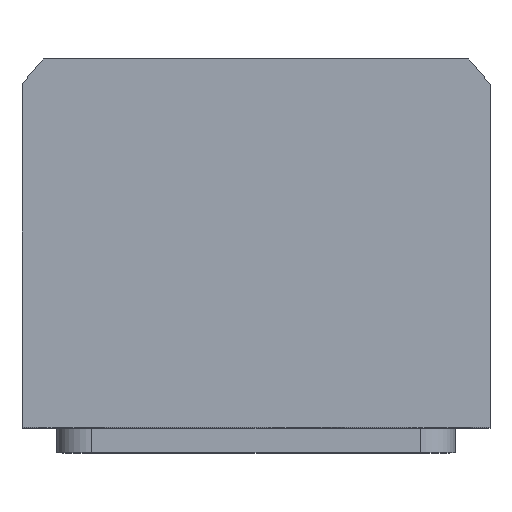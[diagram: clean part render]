
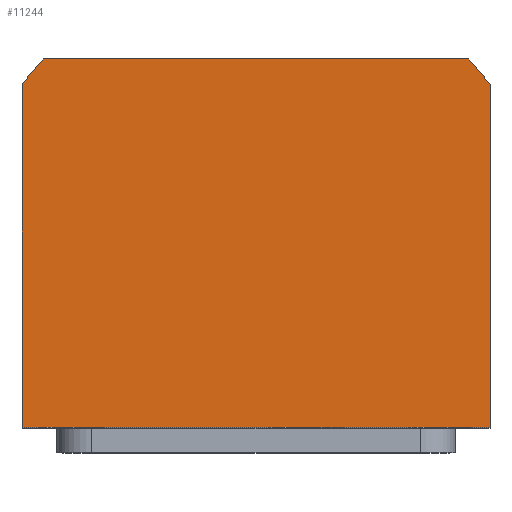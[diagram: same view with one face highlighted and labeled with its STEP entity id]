
A CAD part, top view. The second image highlights one B-rep face of the part: STEP entity #11244.
In plain terms, the highlighted planar face has unit normal (0, 0, 1).
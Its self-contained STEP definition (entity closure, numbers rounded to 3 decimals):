
#343 = CARTESIAN_POINT ( 'NONE',  ( 47., 34.832, 62.5 ) ) ;
#586 = VECTOR ( 'NONE', #9265, 1000. ) ;
#790 = DIRECTION ( 'NONE',  ( 1., 0., 0. ) ) ;
#1050 = DIRECTION ( 'NONE',  ( 1., 0., 0. ) ) ;
#1101 = DIRECTION ( 'NONE',  ( 0., 0., 1. ) ) ;
#1125 = VECTOR ( 'NONE', #7964, 1000. ) ;
#1385 = CARTESIAN_POINT ( 'NONE',  ( 47., 34.832, 62.5 ) ) ;
#1473 = VERTEX_POINT ( 'NONE', #3201 ) ;
#1519 = EDGE_CURVE ( 'NONE', #4771, #7398, #8348, .T. ) ;
#2261 = AXIS2_PLACEMENT_3D ( 'NONE', #11240, #10021, #790 ) ;
#2596 = VERTEX_POINT ( 'NONE', #6832 ) ;
#2744 = EDGE_CURVE ( 'NONE', #4696, #14086, #14816, .T. ) ;
#2892 = AXIS2_PLACEMENT_3D ( 'NONE', #14411, #5334, #7507 ) ;
#3201 = CARTESIAN_POINT ( 'NONE',  ( -42.688, 40., 62.5 ) ) ;
#3496 = CIRCLE ( 'NONE', #4335, 58.5 ) ;
#3523 = FACE_OUTER_BOUND ( 'NONE', #3613, .T. ) ;
#3613 = EDGE_LOOP ( 'NONE', ( #12106, #4655, #4241, #9357, #12637, #7043 ) ) ;
#4241 = ORIENTED_EDGE ( 'NONE', *, *, #5496, .T. ) ;
#4302 = DIRECTION ( 'NONE',  ( 1., 0., 0. ) ) ;
#4335 = AXIS2_PLACEMENT_3D ( 'NONE', #4736, #1101, #1050 ) ;
#4655 = ORIENTED_EDGE ( 'NONE', *, *, #2744, .T. ) ;
#4696 = VERTEX_POINT ( 'NONE', #14003 ) ;
#4736 = CARTESIAN_POINT ( 'NONE',  ( 0., 0., 62.5 ) ) ;
#4771 = VERTEX_POINT ( 'NONE', #14312 ) ;
#5334 = DIRECTION ( 'NONE',  ( 0., 0., 1. ) ) ;
#5496 = EDGE_CURVE ( 'NONE', #14086, #2596, #8185, .T. ) ;
#6412 = EDGE_CURVE ( 'NONE', #1473, #4771, #3496, .T. ) ;
#6462 = EDGE_CURVE ( 'NONE', #2596, #1473, #9816, .T. ) ;
#6832 = CARTESIAN_POINT ( 'NONE',  ( 42.688, 40., 62.5 ) ) ;
#6904 = EDGE_CURVE ( 'NONE', #7398, #4696, #9437, .T. ) ;
#7043 = ORIENTED_EDGE ( 'NONE', *, *, #1519, .T. ) ;
#7080 = VECTOR ( 'NONE', #4302, 1000. ) ;
#7398 = VERTEX_POINT ( 'NONE', #12589 ) ;
#7507 = DIRECTION ( 'NONE',  ( 1., 0., 0. ) ) ;
#7964 = DIRECTION ( 'NONE',  ( 0., -1., 0. ) ) ;
#8185 = CIRCLE ( 'NONE', #2892, 58.5 ) ;
#8348 = LINE ( 'NONE', #14915, #1125 ) ;
#9224 = VECTOR ( 'NONE', #14051, 1000. ) ;
#9265 = DIRECTION ( 'NONE',  ( -1., 0., 0. ) ) ;
#9357 = ORIENTED_EDGE ( 'NONE', *, *, #6462, .T. ) ;
#9437 = LINE ( 'NONE', #11216, #7080 ) ;
#9816 = LINE ( 'NONE', #11456, #586 ) ;
#10021 = DIRECTION ( 'NONE',  ( 0., 0., 1. ) ) ;
#11216 = CARTESIAN_POINT ( 'NONE',  ( 47., -34., 62.5 ) ) ;
#11240 = CARTESIAN_POINT ( 'NONE',  ( 0., 0., 62.5 ) ) ;
#11244 = ADVANCED_FACE ( 'NONE', ( #3523 ), #13569, .T. ) ;
#11456 = CARTESIAN_POINT ( 'NONE',  ( -42.688, 40., 62.5 ) ) ;
#12106 = ORIENTED_EDGE ( 'NONE', *, *, #6904, .T. ) ;
#12589 = CARTESIAN_POINT ( 'NONE',  ( -47., -34., 62.5 ) ) ;
#12637 = ORIENTED_EDGE ( 'NONE', *, *, #6412, .T. ) ;
#13569 = PLANE ( 'NONE',  #2261 ) ;
#14003 = CARTESIAN_POINT ( 'NONE',  ( 47., -34., 62.5 ) ) ;
#14051 = DIRECTION ( 'NONE',  ( 0., 1., 0. ) ) ;
#14086 = VERTEX_POINT ( 'NONE', #343 ) ;
#14312 = CARTESIAN_POINT ( 'NONE',  ( -47., 34.832, 62.5 ) ) ;
#14411 = CARTESIAN_POINT ( 'NONE',  ( 0., 0., 62.5 ) ) ;
#14816 = LINE ( 'NONE', #1385, #9224 ) ;
#14915 = CARTESIAN_POINT ( 'NONE',  ( -47., -34., 62.5 ) ) ;
